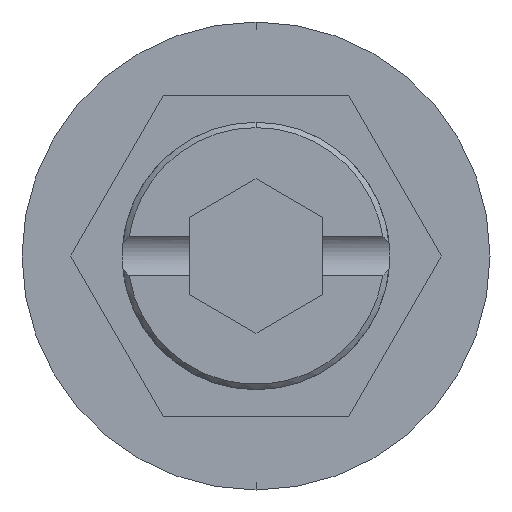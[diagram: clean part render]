
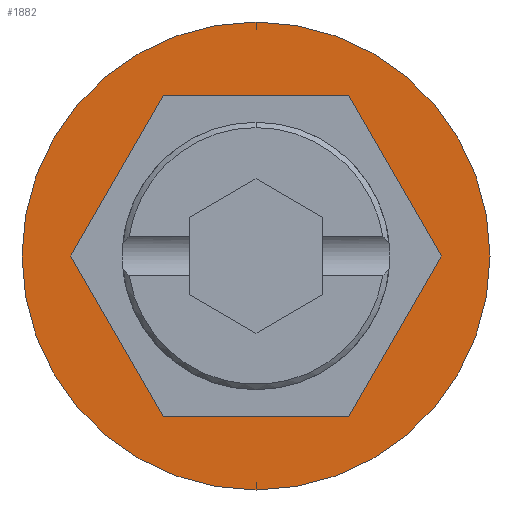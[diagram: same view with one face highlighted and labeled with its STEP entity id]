
A CAD part, front view. The second image highlights one B-rep face of the part: STEP entity #1882.
In plain terms, the highlighted planar face has unit normal (0, -1, 0).
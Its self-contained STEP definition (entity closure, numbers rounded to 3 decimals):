
#8 = CARTESIAN_POINT ( 'NONE',  ( 0., 0., -8.75 ) ) ;
#127 = EDGE_CURVE ( 'NONE', #1197, #3170, #1088, .T. ) ;
#139 = ORIENTED_EDGE ( 'NONE', *, *, #1177, .F. ) ;
#304 = VECTOR ( 'NONE', #1458, 1000. ) ;
#316 = DIRECTION ( 'NONE',  ( 1., 0., 0. ) ) ;
#325 = CARTESIAN_POINT ( 'NONE',  ( -3.464, 0., -6. ) ) ;
#502 = DIRECTION ( 'NONE',  ( 0., 0., -1. ) ) ;
#509 = ORIENTED_EDGE ( 'NONE', *, *, #127, .F. ) ;
#515 = DIRECTION ( 'NONE',  ( 0., -1., 0. ) ) ;
#525 = CARTESIAN_POINT ( 'NONE',  ( 0., 0., 0. ) ) ;
#529 = DIRECTION ( 'NONE',  ( -1., 0., 0. ) ) ;
#531 = CARTESIAN_POINT ( 'NONE',  ( 3.464, 0., 6. ) ) ;
#540 = VERTEX_POINT ( 'NONE', #8 ) ;
#543 = PLANE ( 'NONE',  #638 ) ;
#566 = FACE_BOUND ( 'NONE', #2613, .T. ) ;
#636 = VECTOR ( 'NONE', #529, 1000. ) ;
#638 = AXIS2_PLACEMENT_3D ( 'NONE', #525, #515, #502 ) ;
#642 = CARTESIAN_POINT ( 'NONE',  ( 6.928, 0., 0. ) ) ;
#671 = CARTESIAN_POINT ( 'NONE',  ( 0., 0., 0. ) ) ;
#680 = DIRECTION ( 'NONE',  ( 0., -1., 0. ) ) ;
#681 = VECTOR ( 'NONE', #3314, 1000. ) ;
#683 = DIRECTION ( 'NONE',  ( 0., 0., -1. ) ) ;
#685 = LINE ( 'NONE', #3227, #681 ) ;
#701 = CARTESIAN_POINT ( 'NONE',  ( 3.464, 0., -6. ) ) ;
#756 = VERTEX_POINT ( 'NONE', #1244 ) ;
#805 = EDGE_CURVE ( 'NONE', #756, #2824, #1804, .T. ) ;
#945 = CARTESIAN_POINT ( 'NONE',  ( -3.464, 0., 6. ) ) ;
#986 = EDGE_CURVE ( 'NONE', #540, #2274, #1466, .T. ) ;
#1028 = ORIENTED_EDGE ( 'NONE', *, *, #805, .F. ) ;
#1033 = VECTOR ( 'NONE', #1785, 1000. ) ;
#1088 = LINE ( 'NONE', #945, #2023 ) ;
#1122 = VERTEX_POINT ( 'NONE', #3122 ) ;
#1176 = ORIENTED_EDGE ( 'NONE', *, *, #3191, .F. ) ;
#1177 = EDGE_CURVE ( 'NONE', #2824, #1559, #685, .T. ) ;
#1197 = VERTEX_POINT ( 'NONE', #3347 ) ;
#1244 = CARTESIAN_POINT ( 'NONE',  ( -3.464, 0., -6. ) ) ;
#1293 = LINE ( 'NONE', #531, #636 ) ;
#1330 = CARTESIAN_POINT ( 'NONE',  ( -6.928, 0., 0. ) ) ;
#1422 = EDGE_CURVE ( 'NONE', #2274, #540, #3324, .T. ) ;
#1434 = CARTESIAN_POINT ( 'NONE',  ( 0., 0., 8.75 ) ) ;
#1458 = DIRECTION ( 'NONE',  ( -0.5, 0., 0.866 ) ) ;
#1466 = CIRCLE ( 'NONE', #1592, 8.75 ) ;
#1559 = VERTEX_POINT ( 'NONE', #2480 ) ;
#1592 = AXIS2_PLACEMENT_3D ( 'NONE', #671, #680, #683 ) ;
#1595 = DIRECTION ( 'NONE',  ( 0., 0., -1. ) ) ;
#1673 = LINE ( 'NONE', #642, #304 ) ;
#1735 = DIRECTION ( 'NONE',  ( 0., -1., 0. ) ) ;
#1747 = LINE ( 'NONE', #1330, #1033 ) ;
#1785 = DIRECTION ( 'NONE',  ( 0.5, 0., -0.866 ) ) ;
#1804 = LINE ( 'NONE', #325, #1864 ) ;
#1863 = EDGE_CURVE ( 'NONE', #1122, #1197, #1293, .T. ) ;
#1864 = VECTOR ( 'NONE', #316, 1000. ) ;
#1882 = ADVANCED_FACE ( 'NONE', ( #566, #2722 ), #543, .T. ) ;
#1912 = ORIENTED_EDGE ( 'NONE', *, *, #1863, .F. ) ;
#1995 = ORIENTED_EDGE ( 'NONE', *, *, #1422, .T. ) ;
#2023 = VECTOR ( 'NONE', #3427, 1000. ) ;
#2163 = CARTESIAN_POINT ( 'NONE',  ( 0., 0., 0. ) ) ;
#2274 = VERTEX_POINT ( 'NONE', #1434 ) ;
#2480 = CARTESIAN_POINT ( 'NONE',  ( 6.928, 0., 0. ) ) ;
#2496 = EDGE_CURVE ( 'NONE', #3170, #756, #1747, .T. ) ;
#2613 = EDGE_LOOP ( 'NONE', ( #1028, #2827, #509, #1912, #1176, #139 ) ) ;
#2642 = ORIENTED_EDGE ( 'NONE', *, *, #986, .T. ) ;
#2722 = FACE_OUTER_BOUND ( 'NONE', #3111, .T. ) ;
#2824 = VERTEX_POINT ( 'NONE', #701 ) ;
#2827 = ORIENTED_EDGE ( 'NONE', *, *, #2496, .F. ) ;
#2966 = AXIS2_PLACEMENT_3D ( 'NONE', #2163, #1735, #1595 ) ;
#3078 = CARTESIAN_POINT ( 'NONE',  ( -6.928, 0., 0. ) ) ;
#3111 = EDGE_LOOP ( 'NONE', ( #2642, #1995 ) ) ;
#3122 = CARTESIAN_POINT ( 'NONE',  ( 3.464, 0., 6. ) ) ;
#3170 = VERTEX_POINT ( 'NONE', #3078 ) ;
#3191 = EDGE_CURVE ( 'NONE', #1559, #1122, #1673, .T. ) ;
#3227 = CARTESIAN_POINT ( 'NONE',  ( 3.464, 0., -6. ) ) ;
#3314 = DIRECTION ( 'NONE',  ( 0.5, 0., 0.866 ) ) ;
#3324 = CIRCLE ( 'NONE', #2966, 8.75 ) ;
#3347 = CARTESIAN_POINT ( 'NONE',  ( -3.464, 0., 6. ) ) ;
#3427 = DIRECTION ( 'NONE',  ( -0.5, 0., -0.866 ) ) ;
